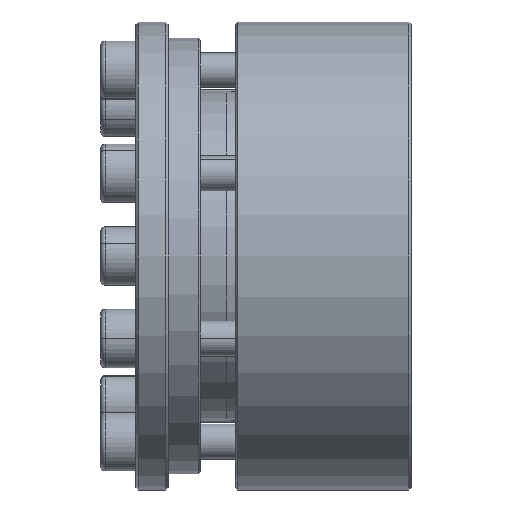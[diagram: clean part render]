
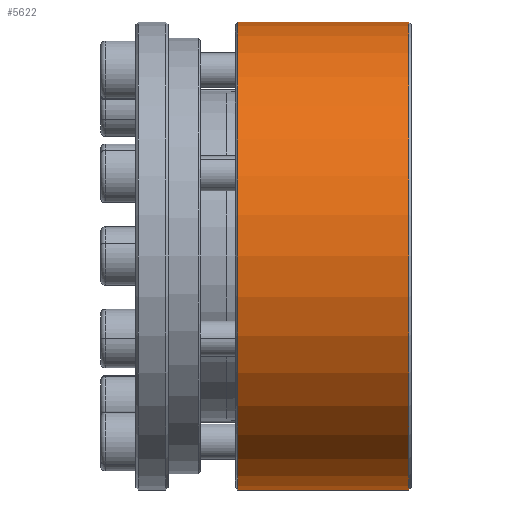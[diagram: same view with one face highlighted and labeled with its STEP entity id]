
A CAD part, front view. The second image highlights one B-rep face of the part: STEP entity #5622.
In plain terms, the highlighted cylindrical face has radius 39.95 mm (diameter 79.9 mm), a partial arc.
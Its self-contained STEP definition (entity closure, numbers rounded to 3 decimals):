
#23 = DIRECTION ( 'NONE',  ( 0., 0., -1. ) ) ;
#108 = ORIENTED_EDGE ( 'NONE', *, *, #1033, .T. ) ;
#156 = LINE ( 'NONE', #1319, #1958 ) ;
#193 = DIRECTION ( 'NONE',  ( -1., 0., 0. ) ) ;
#241 = EDGE_CURVE ( 'NONE', #6101, #703, #156, .T. ) ;
#521 = DIRECTION ( 'NONE',  ( -1., 0., 0. ) ) ;
#703 = VERTEX_POINT ( 'NONE', #4950 ) ;
#771 = DIRECTION ( 'NONE',  ( 0., 0., 1. ) ) ;
#1033 = EDGE_CURVE ( 'NONE', #6101, #3220, #7380, .T. ) ;
#1118 = AXIS2_PLACEMENT_3D ( 'NONE', #6233, #1955, #771 ) ;
#1319 = CARTESIAN_POINT ( 'NONE',  ( -88.766, 26.04, -39.95 ) ) ;
#1646 = CARTESIAN_POINT ( 'NONE',  ( -59.166, 26.04, -39.95 ) ) ;
#1684 = ORIENTED_EDGE ( 'NONE', *, *, #241, .F. ) ;
#1713 = CARTESIAN_POINT ( 'NONE',  ( -88.766, 26.04, 39.95 ) ) ;
#1955 = DIRECTION ( 'NONE',  ( -1., 0., 0. ) ) ;
#1958 = VECTOR ( 'NONE', #193, 1000. ) ;
#2066 = EDGE_LOOP ( 'NONE', ( #1684, #108, #3516, #3087 ) ) ;
#2864 = CARTESIAN_POINT ( 'NONE',  ( -59.166, 26.04, 39.95 ) ) ;
#2976 = CIRCLE ( 'NONE', #4000, 39.95 ) ;
#3087 = ORIENTED_EDGE ( 'NONE', *, *, #5790, .T. ) ;
#3220 = VERTEX_POINT ( 'NONE', #2864 ) ;
#3409 = LINE ( 'NONE', #1713, #4639 ) ;
#3516 = ORIENTED_EDGE ( 'NONE', *, *, #5246, .T. ) ;
#3813 = FACE_OUTER_BOUND ( 'NONE', #2066, .T. ) ;
#4000 = AXIS2_PLACEMENT_3D ( 'NONE', #4479, #5611, #23 ) ;
#4479 = CARTESIAN_POINT ( 'NONE',  ( -88.366, 26.04, 0. ) ) ;
#4495 = DIRECTION ( 'NONE',  ( -1., 0., 0. ) ) ;
#4639 = VECTOR ( 'NONE', #521, 1000. ) ;
#4950 = CARTESIAN_POINT ( 'NONE',  ( -88.366, 26.04, -39.95 ) ) ;
#5082 = DIRECTION ( 'NONE',  ( 0., 0., 1. ) ) ;
#5246 = EDGE_CURVE ( 'NONE', #3220, #5710, #3409, .T. ) ;
#5611 = DIRECTION ( 'NONE',  ( 1., 0., 0. ) ) ;
#5622 = ADVANCED_FACE ( 'NONE', ( #3813 ), #5666, .T. ) ;
#5666 = CYLINDRICAL_SURFACE ( 'NONE', #6927, 39.95 ) ;
#5710 = VERTEX_POINT ( 'NONE', #6044 ) ;
#5790 = EDGE_CURVE ( 'NONE', #5710, #703, #2976, .T. ) ;
#6044 = CARTESIAN_POINT ( 'NONE',  ( -88.366, 26.04, 39.95 ) ) ;
#6101 = VERTEX_POINT ( 'NONE', #1646 ) ;
#6231 = CARTESIAN_POINT ( 'NONE',  ( -88.766, 26.04, 0. ) ) ;
#6233 = CARTESIAN_POINT ( 'NONE',  ( -59.166, 26.04, 0. ) ) ;
#6927 = AXIS2_PLACEMENT_3D ( 'NONE', #6231, #4495, #5082 ) ;
#7380 = CIRCLE ( 'NONE', #1118, 39.95 ) ;
